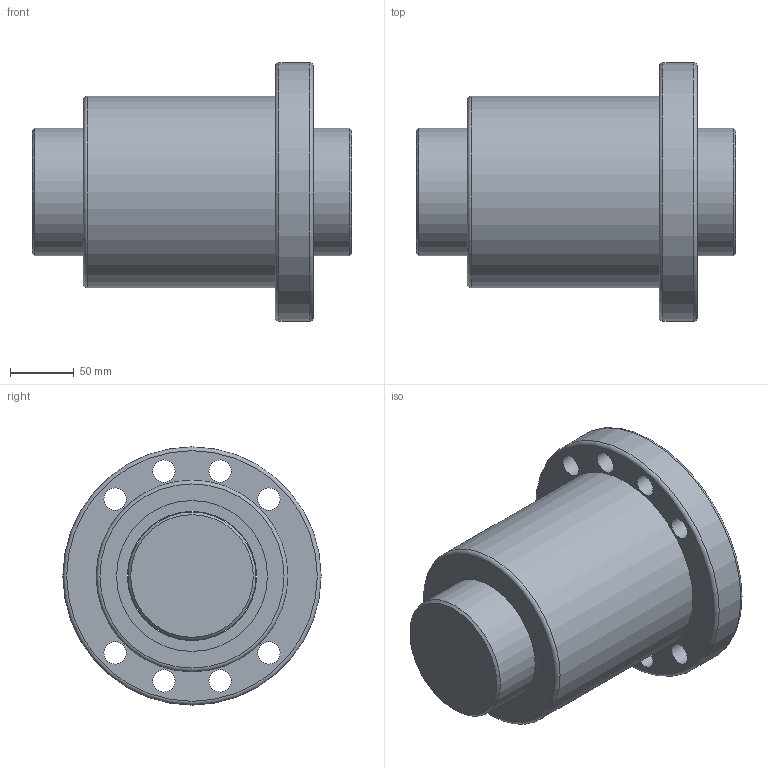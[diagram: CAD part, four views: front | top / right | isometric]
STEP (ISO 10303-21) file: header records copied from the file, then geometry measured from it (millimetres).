
FILE_DESCRIPTION(/* description */ (''),/* implementation_level */ '2;1');
FILE_NAME(/* name */ '',/* time_stamp */ '2009-10-01T10:51:19+08:00',/* author */ (''),/* organization */ (''),/* preprocessor_version */ 'ST-DEVELOPER v11',/* originating_system */ 'SIEMENS UGS NX 6.0',/* authorisation */ '');
FILE_SCHEMA (('CONFIG_CONTROL_DESIGN'));
Length unit declared in the file: millimetre
Products named in the file (1): SFU10020-2
Bounding box: 250 x 202 x 202 mm (x, y, z)
Volume: 4071199.6 mm3; surface area: 329442.2 mm2
Topology: 4 solids, 4 shells, 34 faces, 64 edges, 41 vertices
Faces by surface type: cylinder 18, plane 11, torus 3, cone 2
Full cylindrical faces by diameter (mm): 17.5 x8, 100 x1, 101 x3, 118 x4, 150 x1, 202 x1
Entity records: 878 total; most frequent: DIRECTION 152, CARTESIAN_POINT 117, EDGE_LOOP 82, ORIENTED_EDGE 82, FACE_BOUND 80, AXIS2_PLACEMENT_3D 76, VERTEX_POINT 41, EDGE_CURVE 41
